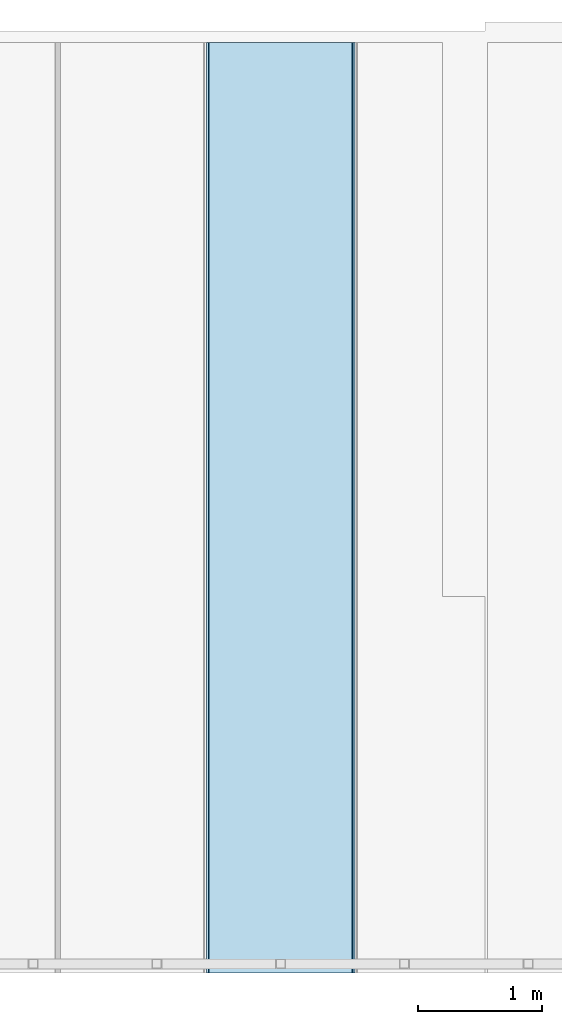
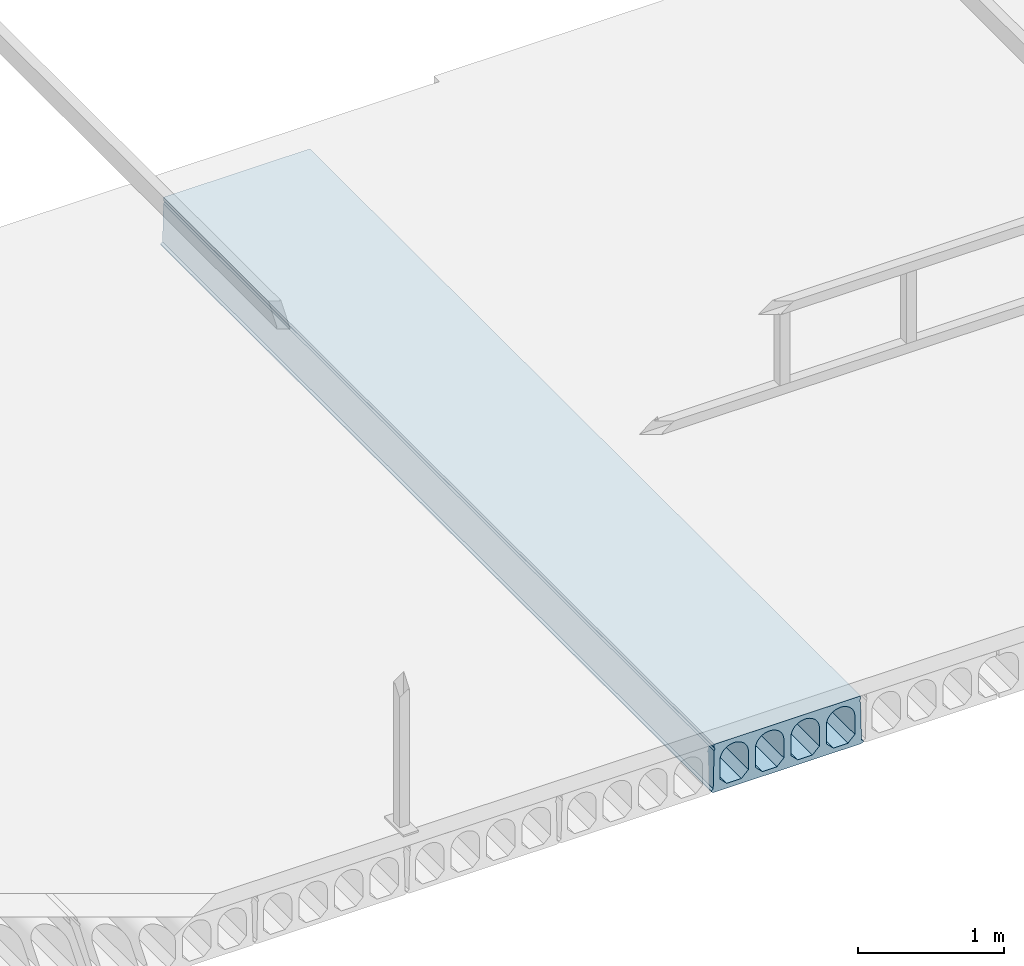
# One storey, part 13 of 20: 1 slab.
"""IFC2X3 building model written with IfcOpenShell, lengths in millimetres."""

from ifc_helpers import new_model, entity, si_unit, converted_unit, derived_unit, direction, frame, origin_with_axes, place, context, subcontext, project, spatial, faceted_brep, type_object, element, save


model = new_model("IFC2X3")

# Units and contexts
model_context = context("Model", 3, precision=0.01, world=frame((0.0, 4.29681676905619e-09, 0.0)), true_north=direction((4.01073788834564e-13, 1.0)))
plan_context = context("Plan", 3, precision=0.01, world=frame((0.0, 4.29681676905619e-09, 0.0)), true_north=direction((4.01073788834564e-13, 1.0)))
body_context = subcontext(model_context, "Body", "Model", "MODEL_VIEW")
ifc_project = project(units=[converted_unit("PLANEANGLEUNIT", "DEGREE", entity("IfcPositiveLengthMeasure", 0.0174532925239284), si_unit("PLANEANGLEUNIT", "RADIAN"), dimensions=[0, 0, 0, 0, 0, 0, 0]), si_unit("AREAUNIT", "SQUARE_METRE"), si_unit("LENGTHUNIT", "METRE", prefix="MILLI"), si_unit("MASSUNIT", "GRAM", prefix="KILO"), si_unit("POWERUNIT", "WATT"), si_unit("PRESSUREUNIT", "PASCAL", prefix="KILO"), si_unit("FORCEUNIT", "NEWTON", prefix="KILO"), si_unit("ELECTRICVOLTAGEUNIT", "VOLT"), si_unit("ELECTRICCURRENTUNIT", "AMPERE"), si_unit("THERMODYNAMICTEMPERATUREUNIT", "DEGREE_CELSIUS"), si_unit("TIMEUNIT", "SECOND"), si_unit("VOLUMEUNIT", "CUBIC_METRE"), derived_unit("LINEARVELOCITYUNIT", [(si_unit("LENGTHUNIT", "METRE"), 1), (si_unit("TIMEUNIT", "SECOND"), -1)]), derived_unit("VOLUMETRICFLOWRATEUNIT", [(si_unit("VOLUMEUNIT", "CUBIC_METRE"), 1), (si_unit("TIMEUNIT", "SECOND"), -1)]), derived_unit("THERMALTRANSMITTANCEUNIT", [(si_unit("POWERUNIT", "WATT"), 1), (si_unit("THERMODYNAMICTEMPERATUREUNIT", "KELVIN"), -1), (si_unit("AREAUNIT", "SQUARE_METRE"), -1)]), derived_unit("SOUNDPRESSUREUNIT", [(si_unit("PRESSUREUNIT", "PASCAL"), 1)])], contexts=[model_context, plan_context])

# Site, building, storey
site_placement = place(None, frame((0.0, -4.29681676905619e-09, 0.0), z_axis=(0.0, 0.0, 1.0), x_axis=(1.0, 0.0, 0.0)))
site = spatial("IfcSite", under=ifc_project, at=site_placement, Name="Gardermoen", CompositionType="ELEMENT")
building_placement = place(site_placement, frame((0.0, 4.29681676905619e-09, 0.0), z_axis=(0.0, 0.0, 1.0), x_axis=(1.0, 0.0, 0.0)))
building = spatial("IfcBuilding", under=site, at=building_placement, Name="TS", CompositionType="ELEMENT")
storey_placement = place(building_placement, origin_with_axes())
storey = spatial("IfcBuildingStorey", under=building, at=storey_placement, Name="D", CompositionType="ELEMENT", Elevation=0.0)

# Slab
slab_type = type_object("IfcSlabType", Name="HD400", PredefinedType="NOTDEFINED")
slab_placement = place(storey_placement, frame((603999.999766, 396739.995625, 203600.0), z_axis=(0.0, 0.0, 1.0), x_axis=(0.0, 1.0, 0.0)))
element("IfcSlab", 1, at=slab_placement, inside=storey, type_object=slab_type, Name="HULLDEKKE", ObjectType="HD400", PredefinedType="FLOOR", context=body_context, shape_type="Brep", body=[
    faceted_brep([(996.504375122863, 600.0, -180.0), (996.504375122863, 600.0, -190.0), (8520.0, 600.0, -190.0), (8520.0, 600.0, -180.0), (996.504375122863, 585.0, -170.0), (8520.0, 585.0, -170.0), (996.504375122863, 577.5, 145.0), (8520.0, 577.5, 145.0), (996.504375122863, 570.0, 160.0), (8520.0, 570.0, 160.0), (996.504375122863, 577.5, 175.0), (8520.0, 577.5, 175.0), (996.504375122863, 577.5, 200.0), (8520.0, 577.5, 200.0), (996.504375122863, -577.5, 200.0), (8520.0, -577.5, 200.0), (996.504375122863, -577.5, 175.0), (8520.0, -577.5, 175.0), (996.504375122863, -570.0, 160.0), (8520.0, -570.0, 160.0), (996.504375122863, -577.5, 145.0), (8520.0, -577.5, 145.0), (996.504375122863, -585.0, -170.0), (8520.0, -585.0, -170.0), (996.504375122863, -600.0, -180.0), (8520.0, -600.0, -180.0), (996.504375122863, -600.0, -190.0), (8520.0, -600.0, -190.0), (996.504375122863, -583.380004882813, -200.0), (8520.0, -583.380004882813, -200.0), (996.504375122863, 583.380004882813, -200.0), (8520.0, 583.380004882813, -200.0), (996.504375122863, -477.5, -160.0), (996.504375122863, -362.5, -160.0), (8520.0, -362.5, -160.0), (8520.0, -477.5, -160.0), (996.504375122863, -532.5, -105.0), (8520.0, -532.5, -105.0), (996.504375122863, -532.5, 47.5), (8520.0, -532.5, 47.5), (996.504375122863, -532.115755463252, 56.7901763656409), (8520.0, -532.115755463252, 56.7901763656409), (996.504375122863, -530.965646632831, 66.0168914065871), (8520.0, -530.965646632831, 66.0168914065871), (996.504375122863, -529.057529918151, 75.1171173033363), (8520.0, -529.057529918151, 75.1171173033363), (996.504375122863, -526.404439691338, 84.028690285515), (8520.0, -526.404439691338, 84.028690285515), (996.504375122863, -523.024499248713, 92.6907352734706), (8520.0, -523.024499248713, 92.6907352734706), (996.504375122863, -518.940797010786, 101.044081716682), (8520.0, -518.940797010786, 101.044081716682), (996.504375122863, -514.181228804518, 109.031667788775), (8520.0, -514.181228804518, 109.031667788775), (996.504375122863, -508.778307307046, 116.598930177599), (8520.0, -508.778307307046, 116.598930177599), (996.504375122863, -502.768939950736, 123.694176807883), (8520.0, -502.768939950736, 123.694176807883), (996.504375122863, -496.194176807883, 130.268939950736), (8520.0, -496.194176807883, 130.268939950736), (996.504375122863, -489.098930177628, 136.278307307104), (8520.0, -489.098930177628, 136.278307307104), (996.504375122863, -481.531667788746, 141.681228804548), (8520.0, -481.531667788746, 141.681228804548), (996.504375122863, -473.544081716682, 146.440797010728), (8520.0, -473.544081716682, 146.440797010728), (996.504375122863, -465.190735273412, 150.524499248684), (8520.0, -465.190735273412, 150.524499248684), (996.504375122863, -456.528690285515, 153.904439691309), (8520.0, -456.528690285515, 153.904439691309), (996.504375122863, -447.617117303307, 156.55752991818), (8520.0, -447.617117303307, 156.55752991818), (996.504375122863, -438.516891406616, 158.465646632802), (8520.0, -438.516891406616, 158.465646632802), (996.504375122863, -429.290176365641, 159.615755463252), (8520.0, -429.290176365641, 159.615755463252), (996.504375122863, -420.0, 160.0), (8520.0, -420.0, 160.0), (996.504375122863, -410.709823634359, 159.615755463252), (8520.0, -410.709823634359, 159.615755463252), (996.504375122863, -401.483108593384, 158.465646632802), (8520.0, -401.483108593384, 158.465646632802), (996.504375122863, -392.382882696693, 156.55752991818), (8520.0, -392.382882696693, 156.55752991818), (996.504375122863, -383.471309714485, 153.904439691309), (8520.0, -383.471309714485, 153.904439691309), (996.504375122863, -374.809264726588, 150.524499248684), (8520.0, -374.809264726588, 150.524499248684), (996.504375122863, -366.455918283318, 146.440797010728), (8520.0, -366.455918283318, 146.440797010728), (996.504375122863, -358.468332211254, 141.681228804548), (8520.0, -358.468332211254, 141.681228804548), (996.504375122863, -350.901069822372, 136.278307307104), (8520.0, -350.901069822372, 136.278307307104), (996.504375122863, -343.805823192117, 130.268939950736), (8520.0, -343.805823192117, 130.268939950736), (996.504375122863, -337.231060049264, 123.694176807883), (8520.0, -337.231060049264, 123.694176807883), (996.504375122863, -331.221692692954, 116.598930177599), (8520.0, -331.221692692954, 116.598930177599), (996.504375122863, -325.818771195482, 109.031667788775), (8520.0, -325.818771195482, 109.031667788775), (996.504375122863, -321.059202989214, 101.044081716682), (8520.0, -321.059202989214, 101.044081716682), (996.504375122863, -316.975500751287, 92.6907352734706), (8520.0, -316.975500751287, 92.6907352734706), (996.504375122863, -313.595560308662, 84.028690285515), (8520.0, -313.595560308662, 84.028690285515), (996.504375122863, -310.942470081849, 75.1171173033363), (8520.0, -310.942470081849, 75.1171173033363), (996.504375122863, -309.034353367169, 66.0168914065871), (8520.0, -309.034353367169, 66.0168914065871), (996.504375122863, -307.884244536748, 56.7901763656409), (8520.0, -307.884244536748, 56.7901763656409), (996.504375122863, -307.5, 47.5), (8520.0, -307.5, 47.5), (996.504375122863, -307.5, -105.0), (8520.0, -307.5, -105.0), (996.504375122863, -197.5, -160.0), (996.504375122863, -82.5, -160.0), (8520.0, -82.5, -160.0), (8520.0, -197.5, -160.0), (996.504375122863, -252.5, -105.0), (8520.0, -252.5, -105.0), (996.504375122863, -252.5, 47.5), (8520.0, -252.5, 47.5), (996.504375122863, -252.115755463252, 56.7901763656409), (8520.0, -252.115755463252, 56.7901763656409), (996.504375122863, -250.965646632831, 66.0168914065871), (8520.0, -250.965646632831, 66.0168914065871), (996.504375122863, -249.057529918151, 75.1171173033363), (8520.0, -249.057529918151, 75.1171173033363), (996.504375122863, -246.404439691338, 84.028690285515), (8520.0, -246.404439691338, 84.028690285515), (996.504375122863, -243.024499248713, 92.6907352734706), (8520.0, -243.024499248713, 92.6907352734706), (996.504375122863, -238.940797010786, 101.044081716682), (8520.0, -238.940797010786, 101.044081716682), (996.504375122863, -234.181228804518, 109.031667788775), (8520.0, -234.181228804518, 109.031667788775), (996.504375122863, -228.778307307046, 116.598930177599), (8520.0, -228.778307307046, 116.598930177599), (996.504375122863, -222.768939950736, 123.694176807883), (8520.0, -222.768939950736, 123.694176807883), (996.504375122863, -216.194176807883, 130.268939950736), (8520.0, -216.194176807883, 130.268939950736), (996.504375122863, -209.098930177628, 136.278307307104), (8520.0, -209.098930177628, 136.278307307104), (996.504375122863, -201.531667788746, 141.681228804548), (8520.0, -201.531667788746, 141.681228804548), (996.504375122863, -193.544081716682, 146.440797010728), (8520.0, -193.544081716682, 146.440797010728), (996.504375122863, -185.190735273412, 150.524499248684), (8520.0, -185.190735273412, 150.524499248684), (996.504375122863, -176.528690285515, 153.904439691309), (8520.0, -176.528690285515, 153.904439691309), (996.504375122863, -167.617117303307, 156.55752991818), (8520.0, -167.617117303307, 156.55752991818), (996.504375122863, -158.516891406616, 158.465646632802), (8520.0, -158.516891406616, 158.465646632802), (996.504375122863, -149.290176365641, 159.615755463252), (8520.0, -149.290176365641, 159.615755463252), (996.504375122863, -140.0, 160.0), (8520.0, -140.0, 160.0), (996.504375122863, -130.709823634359, 159.615755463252), (8520.0, -130.709823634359, 159.615755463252), (996.504375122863, -121.483108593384, 158.465646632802), (8520.0, -121.483108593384, 158.465646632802), (996.504375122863, -112.382882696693, 156.55752991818), (8520.0, -112.382882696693, 156.55752991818), (996.504375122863, -103.471309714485, 153.904439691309), (8520.0, -103.471309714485, 153.904439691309), (996.504375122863, -94.8092647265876, 150.524499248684), (8520.0, -94.8092647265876, 150.524499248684), (996.504375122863, -86.4559182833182, 146.440797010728), (8520.0, -86.4559182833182, 146.440797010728), (996.504375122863, -78.4683322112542, 141.681228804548), (8520.0, -78.4683322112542, 141.681228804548), (996.504375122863, -70.9010698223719, 136.278307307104), (8520.0, -70.9010698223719, 136.278307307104), (996.504375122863, -63.8058231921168, 130.268939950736), (8520.0, -63.8058231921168, 130.268939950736), (996.504375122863, -57.2310600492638, 123.694176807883), (8520.0, -57.2310600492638, 123.694176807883), (996.504375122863, -51.2216926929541, 116.598930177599), (8520.0, -51.2216926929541, 116.598930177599), (996.504375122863, -45.8187711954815, 109.031667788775), (8520.0, -45.8187711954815, 109.031667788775), (996.504375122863, -41.0592029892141, 101.044081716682), (8520.0, -41.0592029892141, 101.044081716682), (996.504375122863, -36.9755007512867, 92.6907352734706), (8520.0, -36.9755007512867, 92.6907352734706), (996.504375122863, -33.5955603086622, 84.028690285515), (8520.0, -33.5955603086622, 84.028690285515), (996.504375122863, -30.942470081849, 75.1171173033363), (8520.0, -30.942470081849, 75.1171173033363), (996.504375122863, -29.0343533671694, 66.0168914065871), (8520.0, -29.0343533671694, 66.0168914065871), (996.504375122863, -27.8842445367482, 56.7901763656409), (8520.0, -27.8842445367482, 56.7901763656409), (996.504375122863, -27.5, 47.5), (8520.0, -27.5, 47.5), (996.504375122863, -27.5, -105.0), (8520.0, -27.5, -105.0), (996.504375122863, 82.5, -160.0), (996.504375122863, 197.5, -160.0), (8520.0, 197.5, -160.0), (8520.0, 82.5, -160.0), (996.504375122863, 27.5, -105.0), (8520.0, 27.5, -105.0), (996.504375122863, 27.5, 47.5), (8520.0, 27.5, 47.5), (996.504375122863, 27.8842445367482, 56.7901763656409), (8520.0, 27.8842445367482, 56.7901763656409), (996.504375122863, 29.0343533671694, 66.0168914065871), (8520.0, 29.0343533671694, 66.0168914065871), (996.504375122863, 30.942470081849, 75.1171173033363), (8520.0, 30.942470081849, 75.1171173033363), (996.504375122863, 33.5955603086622, 84.028690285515), (8520.0, 33.5955603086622, 84.028690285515), (996.504375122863, 36.9755007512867, 92.6907352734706), (8520.0, 36.9755007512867, 92.6907352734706), (996.504375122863, 41.0592029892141, 101.044081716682), (8520.0, 41.0592029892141, 101.044081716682), (996.504375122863, 45.8187711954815, 109.031667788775), (8520.0, 45.8187711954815, 109.031667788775), (996.504375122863, 51.2216926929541, 116.598930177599), (8520.0, 51.2216926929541, 116.598930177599), (996.504375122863, 57.2310600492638, 123.694176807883), (8520.0, 57.2310600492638, 123.694176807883), (996.504375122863, 63.8058231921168, 130.268939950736), (8520.0, 63.8058231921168, 130.268939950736), (996.504375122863, 70.9010698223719, 136.278307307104), (8520.0, 70.9010698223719, 136.278307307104), (996.504375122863, 78.4683322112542, 141.681228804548), (8520.0, 78.4683322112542, 141.681228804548), (996.504375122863, 86.4559182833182, 146.440797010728), (8520.0, 86.4559182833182, 146.440797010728), (996.504375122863, 94.8092647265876, 150.524499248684), (8520.0, 94.8092647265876, 150.524499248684), (996.504375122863, 103.471309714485, 153.904439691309), (8520.0, 103.471309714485, 153.904439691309), (996.504375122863, 112.382882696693, 156.55752991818), (8520.0, 112.382882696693, 156.55752991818), (996.504375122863, 121.483108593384, 158.465646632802), (8520.0, 121.483108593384, 158.465646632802), (996.504375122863, 130.709823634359, 159.615755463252), (8520.0, 130.709823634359, 159.615755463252), (996.504375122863, 140.0, 160.0), (8520.0, 140.0, 160.0), (996.504375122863, 149.290176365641, 159.615755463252), (8520.0, 149.290176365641, 159.615755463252), (996.504375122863, 158.516891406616, 158.465646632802), (8520.0, 158.516891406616, 158.465646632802), (996.504375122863, 167.617117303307, 156.55752991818), (8520.0, 167.617117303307, 156.55752991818), (996.504375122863, 176.528690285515, 153.904439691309), (8520.0, 176.528690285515, 153.904439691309), (996.504375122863, 185.190735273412, 150.524499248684), (8520.0, 185.190735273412, 150.524499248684), (996.504375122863, 193.544081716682, 146.440797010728), (8520.0, 193.544081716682, 146.440797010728), (996.504375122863, 201.531667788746, 141.681228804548), (8520.0, 201.531667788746, 141.681228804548), (996.504375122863, 209.098930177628, 136.278307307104), (8520.0, 209.098930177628, 136.278307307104), (996.504375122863, 216.194176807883, 130.268939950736), (8520.0, 216.194176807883, 130.268939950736), (996.504375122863, 222.768939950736, 123.694176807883), (8520.0, 222.768939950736, 123.694176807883), (996.504375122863, 228.778307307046, 116.598930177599), (8520.0, 228.778307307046, 116.598930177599), (996.504375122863, 234.181228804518, 109.031667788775), (8520.0, 234.181228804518, 109.031667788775), (996.504375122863, 238.940797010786, 101.044081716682), (8520.0, 238.940797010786, 101.044081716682), (996.504375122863, 243.024499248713, 92.6907352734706), (8520.0, 243.024499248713, 92.6907352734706), (996.504375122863, 246.404439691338, 84.028690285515), (8520.0, 246.404439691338, 84.028690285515), (996.504375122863, 249.057529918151, 75.1171173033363), (8520.0, 249.057529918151, 75.1171173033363), (996.504375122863, 250.965646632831, 66.0168914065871), (8520.0, 250.965646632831, 66.0168914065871), (996.504375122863, 252.115755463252, 56.7901763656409), (8520.0, 252.115755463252, 56.7901763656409), (996.504375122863, 252.5, 47.5), (8520.0, 252.5, 47.5), (996.504375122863, 252.5, -105.0), (8520.0, 252.5, -105.0), (996.504375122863, 362.5, -160.0), (996.504375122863, 477.5, -160.0), (8520.0, 477.5, -160.0), (8520.0, 362.5, -160.0), (996.504375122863, 307.5, -105.0), (8520.0, 307.5, -105.0), (996.504375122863, 307.5, 47.5), (8520.0, 307.5, 47.5), (996.504375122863, 307.884244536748, 56.7901763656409), (8520.0, 307.884244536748, 56.7901763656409), (996.504375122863, 309.034353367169, 66.0168914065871), (8520.0, 309.034353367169, 66.0168914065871), (996.504375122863, 310.942470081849, 75.1171173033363), (8520.0, 310.942470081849, 75.1171173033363), (996.504375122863, 313.595560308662, 84.028690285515), (8520.0, 313.595560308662, 84.028690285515), (996.504375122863, 316.975500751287, 92.6907352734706), (8520.0, 316.975500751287, 92.6907352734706), (996.504375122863, 321.059202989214, 101.044081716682), (8520.0, 321.059202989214, 101.044081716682), (996.504375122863, 325.818771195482, 109.031667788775), (8520.0, 325.818771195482, 109.031667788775), (996.504375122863, 331.221692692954, 116.598930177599), (8520.0, 331.221692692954, 116.598930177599), (996.504375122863, 337.231060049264, 123.694176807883), (8520.0, 337.231060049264, 123.694176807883), (996.504375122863, 343.805823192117, 130.268939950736), (8520.0, 343.805823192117, 130.268939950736), (996.504375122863, 350.901069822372, 136.278307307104), (8520.0, 350.901069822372, 136.278307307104), (996.504375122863, 358.468332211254, 141.681228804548), (8520.0, 358.468332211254, 141.681228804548), (996.504375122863, 366.455918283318, 146.440797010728), (8520.0, 366.455918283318, 146.440797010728), (996.504375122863, 374.809264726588, 150.524499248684), (8520.0, 374.809264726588, 150.524499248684), (996.504375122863, 383.471309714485, 153.904439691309), (8520.0, 383.471309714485, 153.904439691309), (996.504375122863, 392.382882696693, 156.55752991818), (8520.0, 392.382882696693, 156.55752991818), (996.504375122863, 401.483108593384, 158.465646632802), (8520.0, 401.483108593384, 158.465646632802), (996.504375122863, 410.709823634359, 159.615755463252), (8520.0, 410.709823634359, 159.615755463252), (996.504375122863, 420.0, 160.0), (8520.0, 420.0, 160.0), (996.504375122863, 429.290176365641, 159.615755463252), (8520.0, 429.290176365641, 159.615755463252), (996.504375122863, 438.516891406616, 158.465646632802), (8520.0, 438.516891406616, 158.465646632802), (996.504375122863, 447.617117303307, 156.55752991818), (8520.0, 447.617117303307, 156.55752991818), (996.504375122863, 456.528690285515, 153.904439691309), (8520.0, 456.528690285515, 153.904439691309), (996.504375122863, 465.190735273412, 150.524499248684), (8520.0, 465.190735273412, 150.524499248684), (996.504375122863, 473.544081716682, 146.440797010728), (8520.0, 473.544081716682, 146.440797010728), (996.504375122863, 481.531667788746, 141.681228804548), (8520.0, 481.531667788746, 141.681228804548), (996.504375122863, 489.098930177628, 136.278307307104), (8520.0, 489.098930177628, 136.278307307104), (996.504375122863, 496.194176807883, 130.268939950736), (8520.0, 496.194176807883, 130.268939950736), (996.504375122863, 502.768939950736, 123.694176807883), (8520.0, 502.768939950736, 123.694176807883), (996.504375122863, 508.778307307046, 116.598930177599), (8520.0, 508.778307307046, 116.598930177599), (996.504375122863, 514.181228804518, 109.031667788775), (8520.0, 514.181228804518, 109.031667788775), (996.504375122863, 518.940797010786, 101.044081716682), (8520.0, 518.940797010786, 101.044081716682), (996.504375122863, 523.024499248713, 92.6907352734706), (8520.0, 523.024499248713, 92.6907352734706), (996.504375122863, 526.404439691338, 84.028690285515), (8520.0, 526.404439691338, 84.028690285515), (996.504375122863, 529.057529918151, 75.1171173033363), (8520.0, 529.057529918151, 75.1171173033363), (996.504375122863, 530.965646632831, 66.0168914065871), (8520.0, 530.965646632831, 66.0168914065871), (996.504375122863, 532.115755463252, 56.7901763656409), (8520.0, 532.115755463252, 56.7901763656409), (996.504375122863, 532.5, 47.5), (8520.0, 532.5, 47.5), (996.504375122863, 532.5, -105.0), (8520.0, 532.5, -105.0)], [[[0, 1, 2, 3]], [[4, 0, 3, 5]], [[6, 4, 5, 7]], [[8, 6, 7, 9]], [[10, 8, 9, 11]], [[12, 10, 11, 13]], [[14, 12, 13, 15]], [[16, 14, 15, 17]], [[18, 16, 17, 19]], [[20, 18, 19, 21]], [[22, 20, 21, 23]], [[24, 22, 23, 25]], [[26, 24, 25, 27]], [[28, 26, 27, 29]], [[30, 28, 29, 31]], [[1, 30, 31, 2]], [[32, 33, 34, 35]], [[36, 32, 35, 37]], [[38, 36, 37, 39]], [[40, 38, 39, 41]], [[42, 40, 41, 43]], [[44, 42, 43, 45]], [[46, 44, 45, 47]], [[48, 46, 47, 49]], [[50, 48, 49, 51]], [[52, 50, 51, 53]], [[54, 52, 53, 55]], [[56, 54, 55, 57]], [[58, 56, 57, 59]], [[60, 58, 59, 61]], [[62, 60, 61, 63]], [[64, 62, 63, 65]], [[66, 64, 65, 67]], [[68, 66, 67, 69]], [[70, 68, 69, 71]], [[72, 70, 71, 73]], [[74, 72, 73, 75]], [[76, 74, 75, 77]], [[78, 76, 77, 79]], [[80, 78, 79, 81]], [[82, 80, 81, 83]], [[84, 82, 83, 85]], [[86, 84, 85, 87]], [[88, 86, 87, 89]], [[90, 88, 89, 91]], [[92, 90, 91, 93]], [[94, 92, 93, 95]], [[96, 94, 95, 97]], [[98, 96, 97, 99]], [[100, 98, 99, 101]], [[102, 100, 101, 103]], [[104, 102, 103, 105]], [[106, 104, 105, 107]], [[108, 106, 107, 109]], [[110, 108, 109, 111]], [[112, 110, 111, 113]], [[114, 112, 113, 115]], [[116, 114, 115, 117]], [[33, 116, 117, 34]], [[118, 119, 120, 121]], [[122, 118, 121, 123]], [[124, 122, 123, 125]], [[126, 124, 125, 127]], [[128, 126, 127, 129]], [[130, 128, 129, 131]], [[132, 130, 131, 133]], [[134, 132, 133, 135]], [[136, 134, 135, 137]], [[138, 136, 137, 139]], [[140, 138, 139, 141]], [[142, 140, 141, 143]], [[144, 142, 143, 145]], [[146, 144, 145, 147]], [[148, 146, 147, 149]], [[150, 148, 149, 151]], [[152, 150, 151, 153]], [[154, 152, 153, 155]], [[156, 154, 155, 157]], [[158, 156, 157, 159]], [[160, 158, 159, 161]], [[162, 160, 161, 163]], [[164, 162, 163, 165]], [[166, 164, 165, 167]], [[168, 166, 167, 169]], [[170, 168, 169, 171]], [[172, 170, 171, 173]], [[174, 172, 173, 175]], [[176, 174, 175, 177]], [[178, 176, 177, 179]], [[180, 178, 179, 181]], [[182, 180, 181, 183]], [[184, 182, 183, 185]], [[186, 184, 185, 187]], [[188, 186, 187, 189]], [[190, 188, 189, 191]], [[192, 190, 191, 193]], [[194, 192, 193, 195]], [[196, 194, 195, 197]], [[198, 196, 197, 199]], [[200, 198, 199, 201]], [[202, 200, 201, 203]], [[119, 202, 203, 120]], [[204, 205, 206, 207]], [[208, 204, 207, 209]], [[210, 208, 209, 211]], [[212, 210, 211, 213]], [[214, 212, 213, 215]], [[216, 214, 215, 217]], [[218, 216, 217, 219]], [[220, 218, 219, 221]], [[222, 220, 221, 223]], [[224, 222, 223, 225]], [[226, 224, 225, 227]], [[228, 226, 227, 229]], [[230, 228, 229, 231]], [[232, 230, 231, 233]], [[234, 232, 233, 235]], [[236, 234, 235, 237]], [[238, 236, 237, 239]], [[240, 238, 239, 241]], [[242, 240, 241, 243]], [[244, 242, 243, 245]], [[246, 244, 245, 247]], [[248, 246, 247, 249]], [[250, 248, 249, 251]], [[252, 250, 251, 253]], [[254, 252, 253, 255]], [[256, 254, 255, 257]], [[258, 256, 257, 259]], [[260, 258, 259, 261]], [[262, 260, 261, 263]], [[264, 262, 263, 265]], [[266, 264, 265, 267]], [[268, 266, 267, 269]], [[270, 268, 269, 271]], [[272, 270, 271, 273]], [[274, 272, 273, 275]], [[276, 274, 275, 277]], [[278, 276, 277, 279]], [[280, 278, 279, 281]], [[282, 280, 281, 283]], [[284, 282, 283, 285]], [[286, 284, 285, 287]], [[288, 286, 287, 289]], [[205, 288, 289, 206]], [[290, 291, 292, 293]], [[294, 290, 293, 295]], [[296, 294, 295, 297]], [[298, 296, 297, 299]], [[300, 298, 299, 301]], [[302, 300, 301, 303]], [[304, 302, 303, 305]], [[306, 304, 305, 307]], [[308, 306, 307, 309]], [[310, 308, 309, 311]], [[312, 310, 311, 313]], [[314, 312, 313, 315]], [[316, 314, 315, 317]], [[318, 316, 317, 319]], [[320, 318, 319, 321]], [[322, 320, 321, 323]], [[324, 322, 323, 325]], [[326, 324, 325, 327]], [[328, 326, 327, 329]], [[330, 328, 329, 331]], [[332, 330, 331, 333]], [[334, 332, 333, 335]], [[336, 334, 335, 337]], [[338, 336, 337, 339]], [[340, 338, 339, 341]], [[342, 340, 341, 343]], [[344, 342, 343, 345]], [[346, 344, 345, 347]], [[348, 346, 347, 349]], [[350, 348, 349, 351]], [[352, 350, 351, 353]], [[354, 352, 353, 355]], [[356, 354, 355, 357]], [[358, 356, 357, 359]], [[360, 358, 359, 361]], [[362, 360, 361, 363]], [[364, 362, 363, 365]], [[366, 364, 365, 367]], [[368, 366, 367, 369]], [[370, 368, 369, 371]], [[372, 370, 371, 373]], [[374, 372, 373, 375]], [[291, 374, 375, 292]], [[3, 2, 31, 29, 27, 25, 23, 21, 19, 17, 15, 13, 11, 9, 7, 5], [293, 292, 375, 373, 371, 369, 367, 365, 363, 361, 359, 357, 355, 353, 351, 349, 347, 345, 343, 341, 339, 337, 335, 333, 331, 329, 327, 325, 323, 321, 319, 317, 315, 313, 311, 309, 307, 305, 303, 301, 299, 297, 295], [207, 206, 289, 287, 285, 283, 281, 279, 277, 275, 273, 271, 269, 267, 265, 263, 261, 259, 257, 255, 253, 251, 249, 247, 245, 243, 241, 239, 237, 235, 233, 231, 229, 227, 225, 223, 221, 219, 217, 215, 213, 211, 209], [121, 120, 203, 201, 199, 197, 195, 193, 191, 189, 187, 185, 183, 181, 179, 177, 175, 173, 171, 169, 167, 165, 163, 161, 159, 157, 155, 153, 151, 149, 147, 145, 143, 141, 139, 137, 135, 133, 131, 129, 127, 125, 123], [35, 34, 117, 115, 113, 111, 109, 107, 105, 103, 101, 99, 97, 95, 93, 91, 89, 87, 85, 83, 81, 79, 77, 75, 73, 71, 69, 67, 65, 63, 61, 59, 57, 55, 53, 51, 49, 47, 45, 43, 41, 39, 37]], [[4, 6, 8, 10, 12, 14, 16, 18, 20, 22, 24, 26, 28, 30, 1, 0], [36, 38, 40, 42, 44, 46, 48, 50, 52, 54, 56, 58, 60, 62, 64, 66, 68, 70, 72, 74, 76, 78, 80, 82, 84, 86, 88, 90, 92, 94, 96, 98, 100, 102, 104, 106, 108, 110, 112, 114, 116, 33, 32], [122, 124, 126, 128, 130, 132, 134, 136, 138, 140, 142, 144, 146, 148, 150, 152, 154, 156, 158, 160, 162, 164, 166, 168, 170, 172, 174, 176, 178, 180, 182, 184, 186, 188, 190, 192, 194, 196, 198, 200, 202, 119, 118], [208, 210, 212, 214, 216, 218, 220, 222, 224, 226, 228, 230, 232, 234, 236, 238, 240, 242, 244, 246, 248, 250, 252, 254, 256, 258, 260, 262, 264, 266, 268, 270, 272, 274, 276, 278, 280, 282, 284, 286, 288, 205, 204], [294, 296, 298, 300, 302, 304, 306, 308, 310, 312, 314, 316, 318, 320, 322, 324, 326, 328, 330, 332, 334, 336, 338, 340, 342, 344, 346, 348, 350, 352, 354, 356, 358, 360, 362, 364, 366, 368, 370, 372, 374, 291, 290]]], orient=[[False], [False], [False], [False], [False], [False], [False], [False], [False], [False], [False], [False], [False], [False], [False], [False], [False], [False], [False], [False], [False], [False], [False], [False], [False], [False], [False], [False], [False], [False], [False], [False], [False], [False], [False], [False], [False], [False], [False], [False], [False], [False], [False], [False], [False], [False], [False], [False], [False], [False], [False], [False], [False], [False], [False], [False], [False], [False], [False], [False], [False], [False], [False], [False], [False], [False], [False], [False], [False], [False], [False], [False], [False], [False], [False], [False], [False], [False], [False], [False], [False], [False], [False], [False], [False], [False], [False], [False], [False], [False], [False], [False], [False], [False], [False], [False], [False], [False], [False], [False], [False], [False], [False], [False], [False], [False], [False], [False], [False], [False], [False], [False], [False], [False], [False], [False], [False], [False], [False], [False], [False], [False], [False], [False], [False], [False], [False], [False], [False], [False], [False], [False], [False], [False], [False], [False], [False], [False], [False], [False], [False], [False], [False], [False], [False], [False], [False], [False], [False], [False], [False], [False], [False], [False], [False], [False], [False], [False], [False], [False], [False], [False], [False], [False], [False], [False], [False], [False], [False], [False], [False], [False], [False], [False], [False], [False], [False], [False], [False], [False], [False], [False], [False], [False], [False], [False], [False], [False], [False, False, False, False, False], [False, False, False, False, False]]),
])

save(model, "model.ifc")
